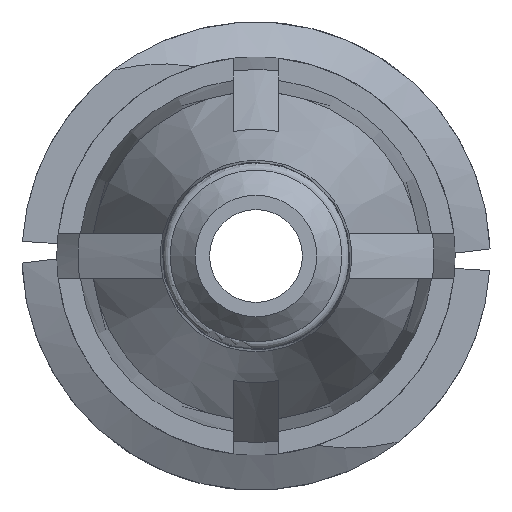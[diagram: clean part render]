
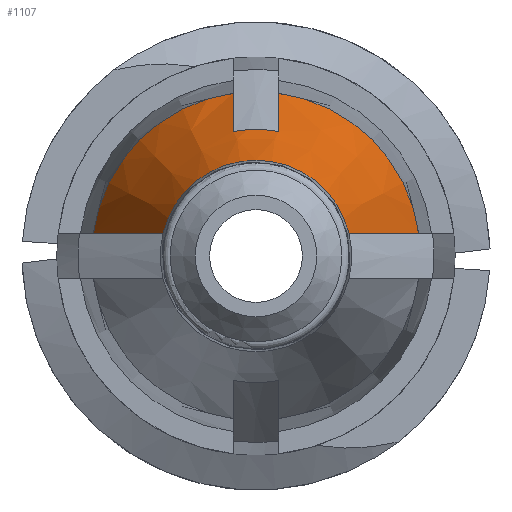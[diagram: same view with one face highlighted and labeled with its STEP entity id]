
A CAD part, front view. The second image highlights one B-rep face of the part: STEP entity #1107.
In plain terms, the highlighted conical face has half-angle 20 degrees and reference radius 2.745 mm.
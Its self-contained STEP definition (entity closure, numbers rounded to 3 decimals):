
#49 = CARTESIAN_POINT ( 'NONE',  ( 2.719, -10.312, 0.381 ) ) ;
#53 = VERTEX_POINT ( 'NONE', #1920 ) ;
#56 = ORIENTED_EDGE ( 'NONE', *, *, #1528, .F. ) ;
#68 = B_SPLINE_CURVE_WITH_KNOTS ( 'NONE', 3,
 ( #1547, #243, #1890, #1224 ),
 .UNSPECIFIED., .F., .F.,
 ( 4, 4 ),
 ( 0.003, 0.007 ),
 .UNSPECIFIED. ) ;
#199 = CARTESIAN_POINT ( 'NONE',  ( -1.554, -13.458, 0.381 ) ) ;
#233 = CARTESIAN_POINT ( 'NONE',  ( 1.554, -13.458, 0.381 ) ) ;
#243 = CARTESIAN_POINT ( 'NONE',  ( -2.333, -11.362, 0.381 ) ) ;
#246 = DIRECTION ( 'NONE',  ( 1., 0., 0. ) ) ;
#284 = CIRCLE ( 'NONE', #417, 2.745 ) ;
#289 = VERTEX_POINT ( 'NONE', #49 ) ;
#317 = CARTESIAN_POINT ( 'NONE',  ( -0.381, -10.888, 2.507 ) ) ;
#339 = VERTEX_POINT ( 'NONE', #233 ) ;
#371 = CARTESIAN_POINT ( 'NONE',  ( 0.381, -12.038, 2.082 ) ) ;
#391 = CARTESIAN_POINT ( 'NONE',  ( -0.381, -12.038, 2.082 ) ) ;
#406 = DIRECTION ( 'NONE',  ( 0., 1., 0. ) ) ;
#417 = AXIS2_PLACEMENT_3D ( 'NONE', #1226, #406, #246 ) ;
#460 = B_SPLINE_CURVE_WITH_KNOTS ( 'NONE', 3,
 ( #1144, #952, #317, #1136 ),
 .UNSPECIFIED., .F., .F.,
 ( 4, 4 ),
 ( 0.002, 0.004 ),
 .UNSPECIFIED. ) ;
#466 = ORIENTED_EDGE ( 'NONE', *, *, #1745, .T. ) ;
#512 = ORIENTED_EDGE ( 'NONE', *, *, #1801, .F. ) ;
#518 = CONICAL_SURFACE ( 'NONE', #1548, 2.745, 0.349 ) ;
#571 = EDGE_CURVE ( 'NONE', #1135, #339, #924, .T. ) ;
#592 = DIRECTION ( 'NONE',  ( 0., -1., 0. ) ) ;
#600 = EDGE_LOOP ( 'NONE', ( #1363, #56, #1522, #920, #466, #512, #624, #1656 ) ) ;
#605 = DIRECTION ( 'NONE',  ( 0., 1., 0. ) ) ;
#624 = ORIENTED_EDGE ( 'NONE', *, *, #1173, .T. ) ;
#632 = CARTESIAN_POINT ( 'NONE',  ( 0.381, -12.038, 2.082 ) ) ;
#640 = B_SPLINE_CURVE_WITH_KNOTS ( 'NONE', 3,
 ( #1439, #933, #757, #2086 ),
 .UNSPECIFIED., .F., .F.,
 ( 4, 4 ),
 ( 0.003, 0.007 ),
 .UNSPECIFIED. ) ;
#665 = DIRECTION ( 'NONE',  ( 1., 0., 0. ) ) ;
#757 = CARTESIAN_POINT ( 'NONE',  ( 1.947, -12.411, 0.381 ) ) ;
#825 = CIRCLE ( 'NONE', #1822, 2.117 ) ;
#900 = VERTEX_POINT ( 'NONE', #1273 ) ;
#920 = ORIENTED_EDGE ( 'NONE', *, *, #1971, .T. ) ;
#924 = CIRCLE ( 'NONE', #1677, 1.6 ) ;
#933 = CARTESIAN_POINT ( 'NONE',  ( 2.333, -11.362, 0.381 ) ) ;
#940 = CARTESIAN_POINT ( 'NONE',  ( 0., -13.458, 0. ) ) ;
#952 = CARTESIAN_POINT ( 'NONE',  ( -0.381, -11.463, 2.295 ) ) ;
#1027 = B_SPLINE_CURVE_WITH_KNOTS ( 'NONE', 3,
 ( #1286, #1791, #1321, #632 ),
 .UNSPECIFIED., .F., .F.,
 ( 4, 4 ),
 ( 0.003, 0.005 ),
 .UNSPECIFIED. ) ;
#1107 = ADVANCED_FACE ( 'NONE', ( #1824 ), #518, .T. ) ;
#1135 = VERTEX_POINT ( 'NONE', #199 ) ;
#1136 = CARTESIAN_POINT ( 'NONE',  ( -0.381, -10.312, 2.719 ) ) ;
#1144 = CARTESIAN_POINT ( 'NONE',  ( -0.381, -12.038, 2.082 ) ) ;
#1173 = EDGE_CURVE ( 'NONE', #53, #1135, #68, .T. ) ;
#1224 = CARTESIAN_POINT ( 'NONE',  ( -1.554, -13.458, 0.381 ) ) ;
#1226 = CARTESIAN_POINT ( 'NONE',  ( 0., -10.312, 0. ) ) ;
#1255 = VERTEX_POINT ( 'NONE', #391 ) ;
#1262 = DIRECTION ( 'NONE',  ( 1., 0., 0. ) ) ;
#1273 = CARTESIAN_POINT ( 'NONE',  ( -0.381, -10.312, 2.719 ) ) ;
#1281 = DIRECTION ( 'NONE',  ( -1., 0., 0. ) ) ;
#1286 = CARTESIAN_POINT ( 'NONE',  ( 0.381, -10.312, 2.719 ) ) ;
#1289 = CARTESIAN_POINT ( 'NONE',  ( 0., -12.038, 0. ) ) ;
#1305 = CIRCLE ( 'NONE', #1717, 2.745 ) ;
#1308 = DIRECTION ( 'NONE',  ( 0., 1., 0. ) ) ;
#1321 = CARTESIAN_POINT ( 'NONE',  ( 0.381, -11.463, 2.295 ) ) ;
#1363 = ORIENTED_EDGE ( 'NONE', *, *, #1714, .F. ) ;
#1389 = VERTEX_POINT ( 'NONE', #1946 ) ;
#1439 = CARTESIAN_POINT ( 'NONE',  ( 2.719, -10.312, 0.381 ) ) ;
#1456 = EDGE_CURVE ( 'NONE', #1389, #1635, #1027, .T. ) ;
#1468 = DIRECTION ( 'NONE',  ( 0., 1., 0. ) ) ;
#1522 = ORIENTED_EDGE ( 'NONE', *, *, #1456, .T. ) ;
#1528 = EDGE_CURVE ( 'NONE', #1389, #289, #284, .T. ) ;
#1547 = CARTESIAN_POINT ( 'NONE',  ( -2.719, -10.312, 0.381 ) ) ;
#1548 = AXIS2_PLACEMENT_3D ( 'NONE', #1979, #1308, #1671 ) ;
#1635 = VERTEX_POINT ( 'NONE', #371 ) ;
#1656 = ORIENTED_EDGE ( 'NONE', *, *, #571, .T. ) ;
#1671 = DIRECTION ( 'NONE',  ( 1., 0., 0. ) ) ;
#1677 = AXIS2_PLACEMENT_3D ( 'NONE', #940, #605, #1262 ) ;
#1714 = EDGE_CURVE ( 'NONE', #289, #339, #640, .T. ) ;
#1717 = AXIS2_PLACEMENT_3D ( 'NONE', #1952, #1468, #665 ) ;
#1745 = EDGE_CURVE ( 'NONE', #1255, #900, #460, .T. ) ;
#1791 = CARTESIAN_POINT ( 'NONE',  ( 0.381, -10.888, 2.507 ) ) ;
#1801 = EDGE_CURVE ( 'NONE', #53, #900, #1305, .T. ) ;
#1822 = AXIS2_PLACEMENT_3D ( 'NONE', #1289, #592, #1281 ) ;
#1824 = FACE_OUTER_BOUND ( 'NONE', #600, .T. ) ;
#1890 = CARTESIAN_POINT ( 'NONE',  ( -1.947, -12.411, 0.381 ) ) ;
#1920 = CARTESIAN_POINT ( 'NONE',  ( -2.719, -10.312, 0.381 ) ) ;
#1946 = CARTESIAN_POINT ( 'NONE',  ( 0.381, -10.312, 2.719 ) ) ;
#1952 = CARTESIAN_POINT ( 'NONE',  ( 0., -10.312, 0. ) ) ;
#1971 = EDGE_CURVE ( 'NONE', #1635, #1255, #825, .T. ) ;
#1979 = CARTESIAN_POINT ( 'NONE',  ( 0., -10.312, 0. ) ) ;
#2086 = CARTESIAN_POINT ( 'NONE',  ( 1.554, -13.458, 0.381 ) ) ;
